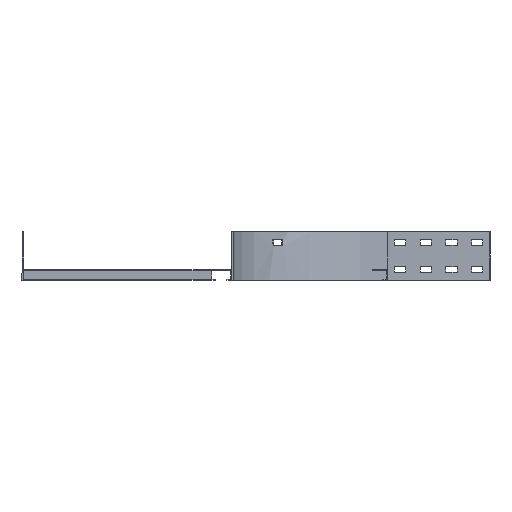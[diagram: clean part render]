
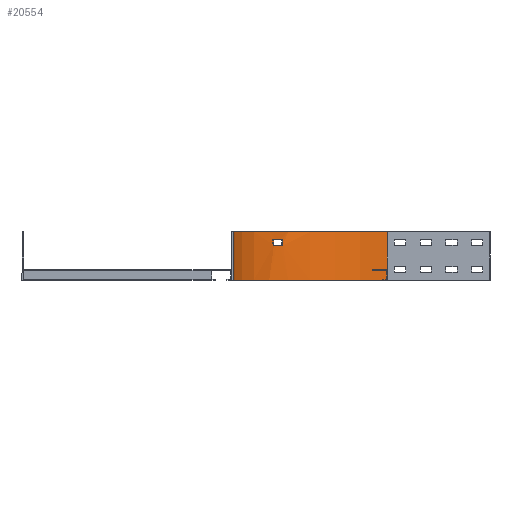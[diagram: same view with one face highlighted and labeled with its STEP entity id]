
A CAD part, left-side view. The second image highlights one B-rep face of the part: STEP entity #20554.
In plain terms, the highlighted cylindrical face has radius 300 mm (diameter 600 mm), a partial arc.
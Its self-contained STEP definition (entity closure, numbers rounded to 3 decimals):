
#515=FACE_BOUND('',#2937,.T.);
#935=CYLINDRICAL_SURFACE('',#21629,300.);
#986=CIRCLE('',#21628,300.);
#987=CIRCLE('',#21630,300.);
#988=CIRCLE('',#21631,300.);
#989=CIRCLE('',#21632,300.);
#1886=FACE_OUTER_BOUND('',#2936,.T.);
#2936=EDGE_LOOP('',(#13877,#13878,#13879,#13880));
#2937=EDGE_LOOP('',(#13881,#13882,#13883,#13884));
#4406=LINE('',#28523,#6570);
#4412=LINE('',#28535,#6576);
#4413=LINE('',#28545,#6577);
#4414=LINE('',#28548,#6578);
#6570=VECTOR('',#23230,304.8);
#6576=VECTOR('',#23238,304.8);
#6577=VECTOR('',#23251,304.8);
#6578=VECTOR('',#23254,304.8);
#8734=VERTEX_POINT('',#28520);
#8735=VERTEX_POINT('',#28522);
#8737=VERTEX_POINT('',#28528);
#8740=VERTEX_POINT('',#28533);
#8741=VERTEX_POINT('',#28541);
#8742=VERTEX_POINT('',#28542);
#8743=VERTEX_POINT('',#28544);
#8744=VERTEX_POINT('',#28546);
#10782=EDGE_CURVE('',#8734,#8735,#4406,.T.);
#10788=EDGE_CURVE('',#8740,#8737,#4412,.T.);
#10790=EDGE_CURVE('',#8737,#8734,#986,.T.);
#10791=EDGE_CURVE('',#8740,#8735,#987,.T.);
#10792=EDGE_CURVE('',#8741,#8742,#988,.T.);
#10793=EDGE_CURVE('',#8742,#8743,#4413,.T.);
#10794=EDGE_CURVE('',#8743,#8744,#989,.T.);
#10795=EDGE_CURVE('',#8744,#8741,#4414,.T.);
#13877=ORIENTED_EDGE('',*,*,#10782,.F.);
#13878=ORIENTED_EDGE('',*,*,#10790,.F.);
#13879=ORIENTED_EDGE('',*,*,#10788,.F.);
#13880=ORIENTED_EDGE('',*,*,#10791,.T.);
#13881=ORIENTED_EDGE('',*,*,#10792,.T.);
#13882=ORIENTED_EDGE('',*,*,#10793,.T.);
#13883=ORIENTED_EDGE('',*,*,#10794,.T.);
#13884=ORIENTED_EDGE('',*,*,#10795,.T.);
#20554=ADVANCED_FACE('',(#1886,#515),#935,.F.);
#21628=AXIS2_PLACEMENT_3D('',#28538,#23243,#23244);
#21629=AXIS2_PLACEMENT_3D('',#28539,#23245,#23246);
#21630=AXIS2_PLACEMENT_3D('',#28540,#23247,#23248);
#21631=AXIS2_PLACEMENT_3D('',#28543,#23249,#23250);
#21632=AXIS2_PLACEMENT_3D('',#28547,#23252,#23253);
#23230=DIRECTION('',(0.,0.,-1.));
#23238=DIRECTION('',(0.,0.,1.));
#23243=DIRECTION('center_axis',(0.,0.,-1.));
#23244=DIRECTION('ref_axis',(1.,0.,0.));
#23245=DIRECTION('center_axis',(0.,0.,1.));
#23246=DIRECTION('ref_axis',(1.,0.,0.));
#23247=DIRECTION('center_axis',(0.,0.,-1.));
#23248=DIRECTION('ref_axis',(1.,0.,0.));
#23249=DIRECTION('center_axis',(0.,0.,-1.));
#23250=DIRECTION('ref_axis',(1.,0.,0.));
#23251=DIRECTION('',(0.,0.,-1.));
#23252=DIRECTION('center_axis',(0.,0.,1.));
#23253=DIRECTION('ref_axis',(1.,0.,0.));
#23254=DIRECTION('',(0.,0.,1.));
#28520=CARTESIAN_POINT('',(-205.5,-505.5,47.));
#28522=CARTESIAN_POINT('',(-205.5,-505.5,-47.));
#28523=CARTESIAN_POINT('',(-205.5,-505.5,47.));
#28528=CARTESIAN_POINT('',(-505.5,-205.5,47.));
#28533=CARTESIAN_POINT('',(-505.5,-205.5,-47.));
#28535=CARTESIAN_POINT('',(-505.5,-205.5,-47.));
#28538=CARTESIAN_POINT('Origin',(-505.5,-505.5,47.));
#28539=CARTESIAN_POINT('Origin',(-505.5,-505.5,0.));
#28540=CARTESIAN_POINT('Origin',(-505.5,-505.5,-47.));
#28541=CARTESIAN_POINT('',(-302.279,-284.816,31.5));
#28542=CARTESIAN_POINT('',(-284.611,-302.503,31.5));
#28543=CARTESIAN_POINT('Origin',(-505.5,-505.5,31.5));
#28544=CARTESIAN_POINT('',(-284.611,-302.503,20.5));
#28545=CARTESIAN_POINT('',(-284.611,-302.503,31.5));
#28546=CARTESIAN_POINT('',(-302.279,-284.816,20.5));
#28547=CARTESIAN_POINT('Origin',(-505.5,-505.5,20.5));
#28548=CARTESIAN_POINT('',(-302.279,-284.816,20.5));
